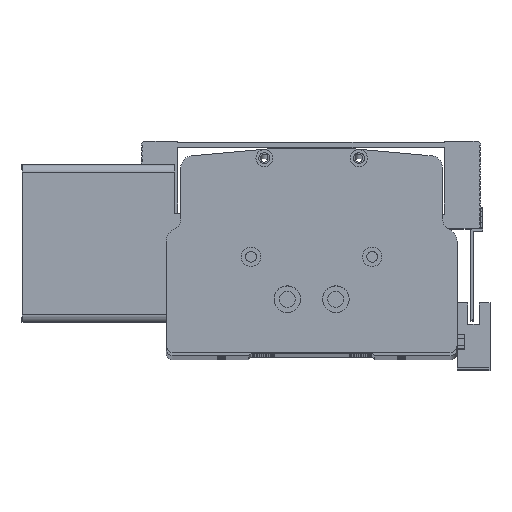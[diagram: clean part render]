
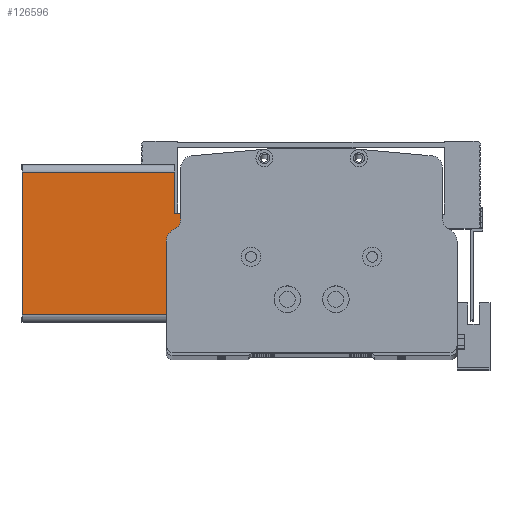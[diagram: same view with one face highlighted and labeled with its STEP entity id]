
A CAD part, top view. The second image highlights one B-rep face of the part: STEP entity #126596.
In plain terms, the highlighted planar face has unit normal (0, 0, 1) as drawn and (-1, 0, 0) by its records, which use the part's own axes.
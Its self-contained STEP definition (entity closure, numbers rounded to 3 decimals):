
#942 = CARTESIAN_POINT ( 'NONE',  ( 0., 62., 87. ) ) ;
#1709 = VERTEX_POINT ( 'NONE', #104988 ) ;
#2535 = EDGE_CURVE ( 'NONE', #1709, #5059, #34265, .T. ) ;
#4869 = DIRECTION ( 'NONE',  ( 0., -1., 0. ) ) ;
#5059 = VERTEX_POINT ( 'NONE', #89032 ) ;
#6042 = CARTESIAN_POINT ( 'NONE',  ( 0., 80.26, 73. ) ) ;
#7127 = DIRECTION ( 'NONE',  ( 0., 0., 1. ) ) ;
#7973 = VERTEX_POINT ( 'NONE', #44425 ) ;
#8167 = CARTESIAN_POINT ( 'NONE',  ( 0., 62., 87. ) ) ;
#8176 = EDGE_CURVE ( 'NONE', #7973, #58182, #109695, .T. ) ;
#11037 = CARTESIAN_POINT ( 'NONE',  ( 0., 45., 63. ) ) ;
#11140 = DIRECTION ( 'NONE',  ( 1., 0., 0. ) ) ;
#12903 = ORIENTED_EDGE ( 'NONE', *, *, #69195, .T. ) ;
#14200 = VECTOR ( 'NONE', #51991, 1000. ) ;
#16001 = ORIENTED_EDGE ( 'NONE', *, *, #8176, .F. ) ;
#16619 = CARTESIAN_POINT ( 'NONE',  ( 0., 62., 73. ) ) ;
#17182 = FACE_OUTER_BOUND ( 'NONE', #41187, .T. ) ;
#17922 = CARTESIAN_POINT ( 'NONE',  ( 0., 3., 87. ) ) ;
#19921 = CARTESIAN_POINT ( 'NONE',  ( 0., 0., 87. ) ) ;
#23274 = VECTOR ( 'NONE', #30102, 1000. ) ;
#26619 = LINE ( 'NONE', #116226, #23274 ) ;
#27130 = VECTOR ( 'NONE', #4869, 1000. ) ;
#28413 = LINE ( 'NONE', #19921, #53691 ) ;
#30102 = DIRECTION ( 'NONE',  ( 0., 0., -1. ) ) ;
#30429 = ORIENTED_EDGE ( 'NONE', *, *, #77042, .F. ) ;
#34139 = ORIENTED_EDGE ( 'NONE', *, *, #130443, .T. ) ;
#34265 = LINE ( 'NONE', #17922, #120197 ) ;
#41187 = EDGE_LOOP ( 'NONE', ( #80732, #16001, #34139, #107573, #94418, #127283, #12903, #30429 ) ) ;
#42472 = DIRECTION ( 'NONE',  ( 0., -1., 0. ) ) ;
#42808 = LINE ( 'NONE', #8167, #14200 ) ;
#44425 = CARTESIAN_POINT ( 'NONE',  ( 0., 62., 63. ) ) ;
#46727 = CARTESIAN_POINT ( 'NONE',  ( 0., 0., 0. ) ) ;
#50312 = DIRECTION ( 'NONE',  ( 0., 1., 0. ) ) ;
#51991 = DIRECTION ( 'NONE',  ( 0., 0., -1. ) ) ;
#53691 = VECTOR ( 'NONE', #42472, 1000. ) ;
#58182 = VERTEX_POINT ( 'NONE', #11037 ) ;
#58942 = VERTEX_POINT ( 'NONE', #942 ) ;
#60076 = EDGE_CURVE ( 'NONE', #92512, #1709, #118388, .T. ) ;
#61002 = VECTOR ( 'NONE', #50312, 1000. ) ;
#61121 = VECTOR ( 'NONE', #111237, 1000. ) ;
#61781 = VERTEX_POINT ( 'NONE', #73616 ) ;
#69195 = EDGE_CURVE ( 'NONE', #58942, #108946, #42808, .T. ) ;
#69329 = CARTESIAN_POINT ( 'NONE',  ( 0., 80.26, 63. ) ) ;
#73616 = CARTESIAN_POINT ( 'NONE',  ( 0., 45., 73. ) ) ;
#75692 = PLANE ( 'NONE',  #118476 ) ;
#77042 = EDGE_CURVE ( 'NONE', #61781, #108946, #118281, .T. ) ;
#80732 = ORIENTED_EDGE ( 'NONE', *, *, #138289, .F. ) ;
#86490 = DIRECTION ( 'NONE',  ( 0., 0., -1. ) ) ;
#86853 = CARTESIAN_POINT ( 'NONE',  ( 0., 62., 0. ) ) ;
#89032 = CARTESIAN_POINT ( 'NONE',  ( 0., 3., 87. ) ) ;
#92512 = VERTEX_POINT ( 'NONE', #86853 ) ;
#94418 = ORIENTED_EDGE ( 'NONE', *, *, #2535, .T. ) ;
#98551 = EDGE_CURVE ( 'NONE', #58942, #5059, #28413, .T. ) ;
#100910 = LINE ( 'NONE', #125958, #129497 ) ;
#104988 = CARTESIAN_POINT ( 'NONE',  ( 0., 3., 0. ) ) ;
#107573 = ORIENTED_EDGE ( 'NONE', *, *, #60076, .T. ) ;
#108946 = VERTEX_POINT ( 'NONE', #16619 ) ;
#109695 = LINE ( 'NONE', #69329, #27130 ) ;
#111237 = DIRECTION ( 'NONE',  ( 0., -1., 0. ) ) ;
#116226 = CARTESIAN_POINT ( 'NONE',  ( 0., 62., 87. ) ) ;
#118281 = LINE ( 'NONE', #6042, #61002 ) ;
#118388 = LINE ( 'NONE', #46727, #61121 ) ;
#118464 = CARTESIAN_POINT ( 'NONE',  ( 0., 0., 87. ) ) ;
#118476 = AXIS2_PLACEMENT_3D ( 'NONE', #118464, #11140, #86490 ) ;
#120197 = VECTOR ( 'NONE', #7127, 1000. ) ;
#125958 = CARTESIAN_POINT ( 'NONE',  ( 0., 45., 63. ) ) ;
#126596 = ADVANCED_FACE ( 'NONE', ( #17182 ), #75692, .F. ) ;
#127283 = ORIENTED_EDGE ( 'NONE', *, *, #98551, .F. ) ;
#129497 = VECTOR ( 'NONE', #136809, 1000. ) ;
#130443 = EDGE_CURVE ( 'NONE', #7973, #92512, #26619, .T. ) ;
#136809 = DIRECTION ( 'NONE',  ( 0., 0., 1. ) ) ;
#138289 = EDGE_CURVE ( 'NONE', #58182, #61781, #100910, .T. ) ;
